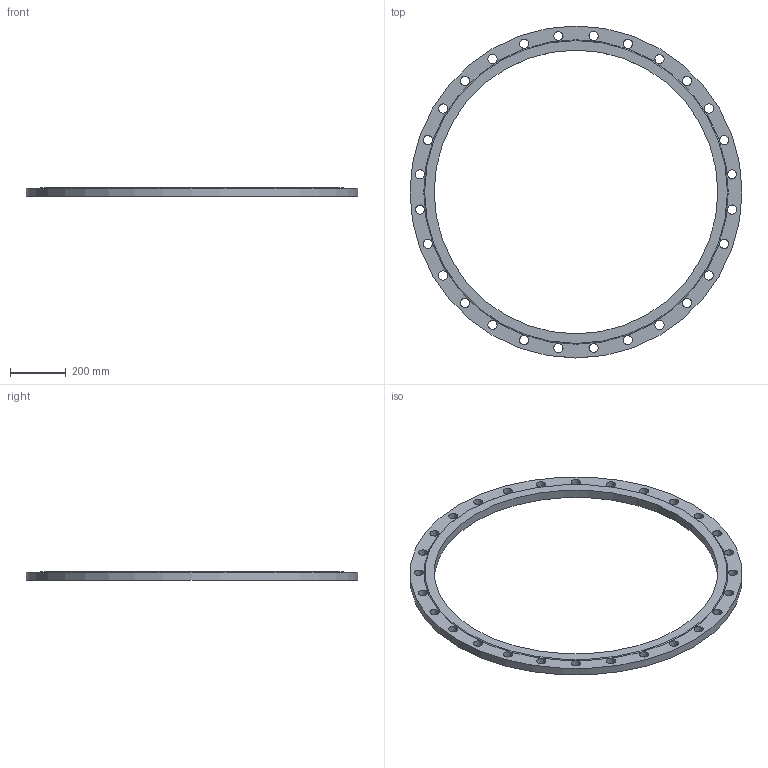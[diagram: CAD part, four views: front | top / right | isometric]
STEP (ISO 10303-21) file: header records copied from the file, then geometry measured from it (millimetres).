
FILE_DESCRIPTION(/* description */ (''),/* implementation_level */ '2;1');
FILE_NAME(/* name */ 'C:\Users\D\Documents\Inventor\HP\JIS\フランジ\JIS 5k sop rf\jis5k-sop-rf-1000.stp',/* time_stamp */ '2024-09-12T17:02:22+09:00',/* author */ ('D'),/* organization */ (''),/* preprocessor_version */ 'ST-DEVELOPER v18',/* originating_system */ 'Autodesk Inventor 2020',/* authorisation */ '');
FILE_SCHEMA (('AUTOMOTIVE_DESIGN { 1 0 10303 214 3 1 1 }'));
Length unit declared in the file: millimetre
Products named in the file (1): jis5k-sop-rf-10
Bounding box: 1195 x 1195 x 32 mm (x, y, z)
Volume: 8437592.4 mm3; surface area: 859341.1 mm2
Topology: 1 solids, 1 shells, 34 faces, 98 edges, 67 vertices
Faces by surface type: cylinder 30, plane 3, torus 1
Full cylindrical faces by diameter (mm): 33 x28, 1021 x1, 1195 x1
Entity records: 1327 total; most frequent: DIRECTION 236, CARTESIAN_POINT 200, ORIENTED_EDGE 196, AXIS2_PLACEMENT_3D 103, EDGE_CURVE 98, EDGE_LOOP 93, CIRCLE 68, VERTEX_POINT 67
